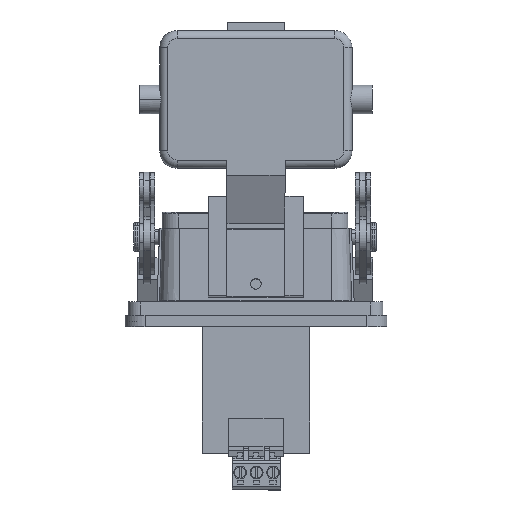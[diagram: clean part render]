
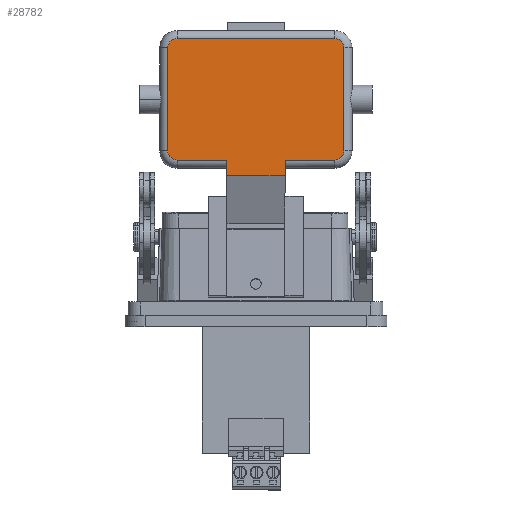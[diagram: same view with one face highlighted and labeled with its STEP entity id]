
A CAD part, front view. The second image highlights one B-rep face of the part: STEP entity #28782.
In plain terms, the highlighted planar face has unit normal (0, -1, 0.008).
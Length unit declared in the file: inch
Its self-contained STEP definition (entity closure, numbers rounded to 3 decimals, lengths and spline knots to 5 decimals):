
#5392 = CARTESIAN_POINT ( 'NONE',  ( 0.36339, -1.82458, 2.01261 ) ) ;
#5620 = CARTESIAN_POINT ( 'NONE',  ( 1.09413, -1.82368, 2.12722 ) ) ;
#5662 = DIRECTION ( 'NONE',  ( 0., 0.008, 1. ) ) ;
#5663 = VECTOR ( 'NONE', #5662, 39.37008 ) ;
#5665 = CARTESIAN_POINT ( 'NONE',  ( -0.36337, -1.84195, -0.19943 ) ) ;
#5666 = LINE ( 'NONE', #5665, #5663 ) ;
#5670 = CARTESIAN_POINT ( 'NONE',  ( 1.09413, -1.81363, 3.40718 ) ) ;
#5929 = CARTESIAN_POINT ( 'NONE',  ( -0.36337, -1.82607, 1.82293 ) ) ;
#6280 = DIRECTION ( 'NONE',  ( -1., 0., 0. ) ) ;
#6282 = DIRECTION ( 'NONE',  ( 0., 1., -0.008 ) ) ;
#6284 = CARTESIAN_POINT ( 'NONE',  ( 0.05973, -1.84195, -0.19943 ) ) ;
#6286 = AXIS2_PLACEMENT_3D ( 'NONE', #6284, #6282, #6280 ) ;
#6290 = PLANE ( 'NONE',  #6286 ) ;
#6320 = FACE_OUTER_BOUND ( 'NONE', #28841, .T. ) ;
#6619 = CARTESIAN_POINT ( 'NONE',  ( 0.36339, -1.82607, 1.82293 ) ) ;
#6621 = DIRECTION ( 'NONE',  ( 1., 0., 0. ) ) ;
#6623 = VECTOR ( 'NONE', #6621, 39.37008 ) ;
#6625 = CARTESIAN_POINT ( 'NONE',  ( 0.05973, -1.82607, 1.82293 ) ) ;
#6627 = LINE ( 'NONE', #6625, #6623 ) ;
#6696 = CARTESIAN_POINT ( 'NONE',  ( 0.97951, -1.81273, 3.5218 ) ) ;
#6717 = DIRECTION ( 'NONE',  ( -1., 0., 0. ) ) ;
#6720 = DIRECTION ( 'NONE',  ( 0., -1., 0.008 ) ) ;
#6722 = CARTESIAN_POINT ( 'NONE',  ( 0.97951, -1.82368, 2.12722 ) ) ;
#6724 = AXIS2_PLACEMENT_3D ( 'NONE', #6722, #6720, #6717 ) ;
#6725 = CIRCLE ( 'NONE', #6724, 0.11462 ) ;
#6728 = DIRECTION ( 'NONE',  ( 0., -0.008, -1. ) ) ;
#6730 = VECTOR ( 'NONE', #6728, 39.37008 ) ;
#6732 = CARTESIAN_POINT ( 'NONE',  ( 0.36339, -1.84195, -0.19943 ) ) ;
#6733 = LINE ( 'NONE', #6732, #6730 ) ;
#6957 = AXIS2_PLACEMENT_3D ( 'NONE', #7085, #7084, #7082 ) ;
#6958 = CIRCLE ( 'NONE', #6957, 0.11462 ) ;
#6963 = CARTESIAN_POINT ( 'NONE',  ( -1.09411, -1.82368, 2.12722 ) ) ;
#6964 = DIRECTION ( 'NONE',  ( 0., -0.008, -1. ) ) ;
#6965 = VECTOR ( 'NONE', #6964, 39.37008 ) ;
#6967 = CARTESIAN_POINT ( 'NONE',  ( -1.09411, -1.84195, -0.19943 ) ) ;
#6968 = LINE ( 'NONE', #6967, #6965 ) ;
#6982 = CARTESIAN_POINT ( 'NONE',  ( -0.97949, -1.81273, 3.5218 ) ) ;
#6983 = DIRECTION ( 'NONE',  ( -1., 0., 0. ) ) ;
#6984 = VECTOR ( 'NONE', #6983, 39.37008 ) ;
#6985 = CARTESIAN_POINT ( 'NONE',  ( 0.05973, -1.81273, 3.5218 ) ) ;
#6986 = LINE ( 'NONE', #6985, #6984 ) ;
#7059 = CARTESIAN_POINT ( 'NONE',  ( -1.09411, -1.81363, 3.40718 ) ) ;
#7060 = DIRECTION ( 'NONE',  ( -1., 0., 0. ) ) ;
#7061 = DIRECTION ( 'NONE',  ( 0., -1., 0.008 ) ) ;
#7062 = CARTESIAN_POINT ( 'NONE',  ( -0.97949, -1.81363, 3.40718 ) ) ;
#7064 = AXIS2_PLACEMENT_3D ( 'NONE', #7062, #7061, #7060 ) ;
#7066 = CIRCLE ( 'NONE', #7064, 0.11462 ) ;
#7073 = DIRECTION ( 'NONE',  ( -1., 0., 0. ) ) ;
#7075 = DIRECTION ( 'NONE',  ( 0., -1., 0.008 ) ) ;
#7076 = CARTESIAN_POINT ( 'NONE',  ( 0.97951, -1.81363, 3.40718 ) ) ;
#7077 = AXIS2_PLACEMENT_3D ( 'NONE', #7076, #7075, #7073 ) ;
#7078 = CIRCLE ( 'NONE', #7077, 0.11462 ) ;
#7082 = DIRECTION ( 'NONE',  ( -1., 0., 0. ) ) ;
#7084 = DIRECTION ( 'NONE',  ( 0., -1., 0.008 ) ) ;
#7085 = CARTESIAN_POINT ( 'NONE',  ( -0.97949, -1.82368, 2.12722 ) ) ;
#28571 = VERTEX_POINT ( 'NONE', #5392 ) ;
#28607 = VERTEX_POINT ( 'NONE', #41033 ) ;
#28609 = EDGE_CURVE ( 'NONE', #28629, #28607, #41031, .T. ) ;
#28629 = VERTEX_POINT ( 'NONE', #41218 ) ;
#28636 = VERTEX_POINT ( 'NONE', #41204 ) ;
#28638 = EDGE_CURVE ( 'NONE', #28571, #28636, #41198, .T. ) ;
#28664 = EDGE_CURVE ( 'NONE', #28673, #28685, #41442, .T. ) ;
#28673 = VERTEX_POINT ( 'NONE', #5620 ) ;
#28685 = VERTEX_POINT ( 'NONE', #5670 ) ;
#28688 = EDGE_CURVE ( 'NONE', #28713, #28607, #5666, .T. ) ;
#28713 = VERTEX_POINT ( 'NONE', #5929 ) ;
#28782 = ADVANCED_FACE ( 'NONE', ( #6320 ), #6290, .F. ) ;
#28841 = EDGE_LOOP ( 'NONE', ( #28842, #28843, #28846, #28848, #28849, #28851, #28852, #28937, #28939, #28932, #28935, #28942 ) ) ;
#28842 = ORIENTED_EDGE ( 'NONE', *, *, #28688, .F. ) ;
#28843 = ORIENTED_EDGE ( 'NONE', *, *, #28844, .T. ) ;
#28844 = EDGE_CURVE ( 'NONE', #28713, #28845, #6627, .T. ) ;
#28845 = VERTEX_POINT ( 'NONE', #6619 ) ;
#28846 = ORIENTED_EDGE ( 'NONE', *, *, #28847, .F. ) ;
#28847 = EDGE_CURVE ( 'NONE', #28571, #28845, #6733, .T. ) ;
#28848 = ORIENTED_EDGE ( 'NONE', *, *, #28638, .T. ) ;
#28849 = ORIENTED_EDGE ( 'NONE', *, *, #28850, .T. ) ;
#28850 = EDGE_CURVE ( 'NONE', #28636, #28673, #6725, .T. ) ;
#28851 = ORIENTED_EDGE ( 'NONE', *, *, #28664, .T. ) ;
#28852 = ORIENTED_EDGE ( 'NONE', *, *, #28938, .T. ) ;
#28859 = VERTEX_POINT ( 'NONE', #6696 ) ;
#28927 = EDGE_CURVE ( 'NONE', #28859, #28928, #6986, .T. ) ;
#28928 = VERTEX_POINT ( 'NONE', #6982 ) ;
#28932 = ORIENTED_EDGE ( 'NONE', *, *, #28933, .T. ) ;
#28933 = EDGE_CURVE ( 'NONE', #28941, #28934, #6968, .T. ) ;
#28934 = VERTEX_POINT ( 'NONE', #6963 ) ;
#28935 = ORIENTED_EDGE ( 'NONE', *, *, #28936, .T. ) ;
#28936 = EDGE_CURVE ( 'NONE', #28934, #28629, #6958, .T. ) ;
#28937 = ORIENTED_EDGE ( 'NONE', *, *, #28927, .T. ) ;
#28938 = EDGE_CURVE ( 'NONE', #28685, #28859, #7078, .T. ) ;
#28939 = ORIENTED_EDGE ( 'NONE', *, *, #28940, .T. ) ;
#28940 = EDGE_CURVE ( 'NONE', #28928, #28941, #7066, .T. ) ;
#28941 = VERTEX_POINT ( 'NONE', #7059 ) ;
#28942 = ORIENTED_EDGE ( 'NONE', *, *, #28609, .T. ) ;
#41031 = LINE ( 'NONE', #41109, #41108 ) ;
#41033 = CARTESIAN_POINT ( 'NONE',  ( -0.36337, -1.82458, 2.01261 ) ) ;
#41107 = DIRECTION ( 'NONE',  ( 1., 0., 0. ) ) ;
#41108 = VECTOR ( 'NONE', #41107, 39.37008 ) ;
#41109 = CARTESIAN_POINT ( 'NONE',  ( -0.36337, -1.82458, 2.01261 ) ) ;
#41192 = DIRECTION ( 'NONE',  ( 1., 0., 0. ) ) ;
#41194 = VECTOR ( 'NONE', #41192, 39.37008 ) ;
#41196 = CARTESIAN_POINT ( 'NONE',  ( 0.97951, -1.82458, 2.01261 ) ) ;
#41198 = LINE ( 'NONE', #41196, #41194 ) ;
#41204 = CARTESIAN_POINT ( 'NONE',  ( 0.97951, -1.82458, 2.01261 ) ) ;
#41218 = CARTESIAN_POINT ( 'NONE',  ( -0.97949, -1.82458, 2.01261 ) ) ;
#41438 = DIRECTION ( 'NONE',  ( 0., 0.008, 1. ) ) ;
#41439 = VECTOR ( 'NONE', #41438, 39.37008 ) ;
#41440 = CARTESIAN_POINT ( 'NONE',  ( 1.09413, -1.81363, 3.40718 ) ) ;
#41442 = LINE ( 'NONE', #41440, #41439 ) ;
